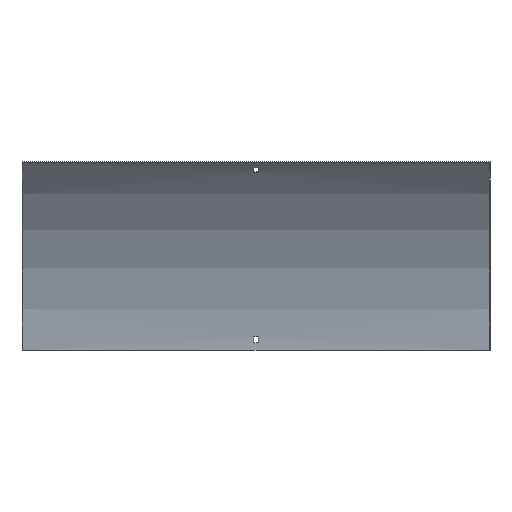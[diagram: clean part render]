
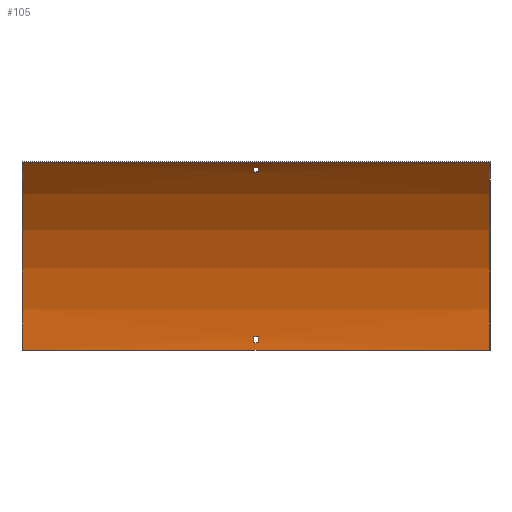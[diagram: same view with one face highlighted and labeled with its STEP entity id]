
A CAD part, front view. The second image highlights one B-rep face of the part: STEP entity #105.
In plain terms, the highlighted cylindrical face has radius 400 mm (diameter 800 mm), a partial arc.
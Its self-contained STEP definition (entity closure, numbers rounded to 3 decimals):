
#17 = EDGE_CURVE ( 'NONE', #217, #593, #139, .T. ) ;
#18 = ORIENTED_EDGE ( 'NONE', *, *, #557, .T. ) ;
#19 = ORIENTED_EDGE ( 'NONE', *, *, #447, .F. ) ;
#22 = CARTESIAN_POINT ( 'NONE',  ( -3.25, -104.198, 267.603 ) ) ;
#32 = AXIS2_PLACEMENT_3D ( 'NONE', #132, #91, #170 ) ;
#34 = AXIS2_PLACEMENT_3D ( 'NONE', #312, #261, #289 ) ;
#37 = DIRECTION ( 'NONE',  ( -1., 0., 0. ) ) ;
#39 = EDGE_LOOP ( 'NONE', ( #408, #247, #308, #18 ) ) ;
#41 = DIRECTION ( 'NONE',  ( 0., 0., -1. ) ) ;
#70 = ORIENTED_EDGE ( 'NONE', *, *, #429, .F. ) ;
#77 = EDGE_CURVE ( 'NONE', #149, #173, #318, .T. ) ;
#87 = EDGE_CURVE ( 'NONE', #482, #480, #209, .T. ) ;
#91 = DIRECTION ( 'NONE',  ( -1., 0., 0. ) ) ;
#94 = DIRECTION ( 'NONE',  ( 0., 0., -1. ) ) ;
#95 = DIRECTION ( 'NONE',  ( 1., 0., 0. ) ) ;
#103 = VECTOR ( 'NONE', #122, 1000. ) ;
#105 = ADVANCED_FACE ( 'NONE', ( #263, #125, #554 ), #406, .F. ) ;
#122 = DIRECTION ( 'NONE',  ( 1., 0., 0. ) ) ;
#125 = FACE_OUTER_BOUND ( 'NONE', #205, .T. ) ;
#132 = CARTESIAN_POINT ( 'NONE',  ( 351.5, -401.5, 0. ) ) ;
#137 = EDGE_CURVE ( 'NONE', #593, #434, #369, .T. ) ;
#139 = LINE ( 'NONE', #423, #279 ) ;
#143 = CIRCLE ( 'NONE', #34, 400. ) ;
#145 = CARTESIAN_POINT ( 'NONE',  ( 3.25, -2.052, 21. ) ) ;
#148 = CARTESIAN_POINT ( 'NONE',  ( 351.5, -2.052, 21. ) ) ;
#149 = VERTEX_POINT ( 'NONE', #363 ) ;
#158 = VERTEX_POINT ( 'NONE', #417 ) ;
#170 = DIRECTION ( 'NONE',  ( 0., 0., 1. ) ) ;
#173 = VERTEX_POINT ( 'NONE', #375 ) ;
#181 = ORIENTED_EDGE ( 'NONE', *, *, #290, .T. ) ;
#186 = CARTESIAN_POINT ( 'NONE',  ( -350., -401.5, 0. ) ) ;
#191 = EDGE_CURVE ( 'NONE', #480, #499, #425, .T. ) ;
#205 = EDGE_LOOP ( 'NONE', ( #367, #70, #542, #181 ) ) ;
#206 = DIRECTION ( 'NONE',  ( -1., 0., 0. ) ) ;
#209 = CIRCLE ( 'NONE', #335, 400. ) ;
#217 = VERTEX_POINT ( 'NONE', #240 ) ;
#219 = CARTESIAN_POINT ( 'NONE',  ( 350., -118.657, 282.843 ) ) ;
#233 = EDGE_CURVE ( 'NONE', #434, #384, #236, .T. ) ;
#236 = LINE ( 'NONE', #578, #416 ) ;
#240 = CARTESIAN_POINT ( 'NONE',  ( 3.25, -104.198, 267.603 ) ) ;
#242 = AXIS2_PLACEMENT_3D ( 'NONE', #409, #361, #415 ) ;
#245 = DIRECTION ( 'NONE',  ( 0., 0., 1. ) ) ;
#247 = ORIENTED_EDGE ( 'NONE', *, *, #137, .T. ) ;
#261 = DIRECTION ( 'NONE',  ( -1., 0., 0. ) ) ;
#263 = FACE_BOUND ( 'NONE', #573, .T. ) ;
#277 = VECTOR ( 'NONE', #444, 1000. ) ;
#279 = VECTOR ( 'NONE', #325, 1000. ) ;
#289 = DIRECTION ( 'NONE',  ( 0., 0., 1. ) ) ;
#290 = EDGE_CURVE ( 'NONE', #403, #173, #298, .T. ) ;
#298 = LINE ( 'NONE', #487, #277 ) ;
#306 = CARTESIAN_POINT ( 'NONE',  ( 3.25, -401.5, 0. ) ) ;
#308 = ORIENTED_EDGE ( 'NONE', *, *, #233, .T. ) ;
#309 = CARTESIAN_POINT ( 'NONE',  ( 351.5, -1.68, 12. ) ) ;
#312 = CARTESIAN_POINT ( 'NONE',  ( -3.25, -401.5, 0. ) ) ;
#318 = CIRCLE ( 'NONE', #483, 400. ) ;
#320 = CARTESIAN_POINT ( 'NONE',  ( 3.25, -401.5, 0. ) ) ;
#325 = DIRECTION ( 'NONE',  ( -1., 0., 0. ) ) ;
#327 = VECTOR ( 'NONE', #37, 1000. ) ;
#332 = EDGE_CURVE ( 'NONE', #529, #482, #353, .T. ) ;
#335 = AXIS2_PLACEMENT_3D ( 'NONE', #320, #592, #94 ) ;
#339 = DIRECTION ( 'NONE',  ( 1., 0., 0. ) ) ;
#353 = LINE ( 'NONE', #309, #103 ) ;
#361 = DIRECTION ( 'NONE',  ( 1., 0., 0. ) ) ;
#363 = CARTESIAN_POINT ( 'NONE',  ( -350., -1.5, 0. ) ) ;
#367 = ORIENTED_EDGE ( 'NONE', *, *, #77, .F. ) ;
#369 = CIRCLE ( 'NONE', #421, 400. ) ;
#372 = CARTESIAN_POINT ( 'NONE',  ( 350., -1.5, 0. ) ) ;
#375 = CARTESIAN_POINT ( 'NONE',  ( -350., -118.657, 282.843 ) ) ;
#384 = VERTEX_POINT ( 'NONE', #448 ) ;
#403 = VERTEX_POINT ( 'NONE', #219 ) ;
#406 = CYLINDRICAL_SURFACE ( 'NONE', #32, 400. ) ;
#408 = ORIENTED_EDGE ( 'NONE', *, *, #17, .T. ) ;
#409 = CARTESIAN_POINT ( 'NONE',  ( 350., -401.5, 0. ) ) ;
#410 = EDGE_CURVE ( 'NONE', #158, #403, #591, .T. ) ;
#415 = DIRECTION ( 'NONE',  ( 0., 0., -1. ) ) ;
#416 = VECTOR ( 'NONE', #339, 1000. ) ;
#417 = CARTESIAN_POINT ( 'NONE',  ( 350., -1.5, 0. ) ) ;
#418 = DIRECTION ( 'NONE',  ( 0., 0., -1. ) ) ;
#420 = CIRCLE ( 'NONE', #553, 400. ) ;
#421 = AXIS2_PLACEMENT_3D ( 'NONE', #459, #545, #41 ) ;
#422 = DIRECTION ( 'NONE',  ( -1., 0., 0. ) ) ;
#423 = CARTESIAN_POINT ( 'NONE',  ( 351.5, -104.198, 267.603 ) ) ;
#425 = LINE ( 'NONE', #148, #467 ) ;
#429 = EDGE_CURVE ( 'NONE', #158, #149, #507, .T. ) ;
#433 = CARTESIAN_POINT ( 'NONE',  ( -3.25, -2.052, 21. ) ) ;
#434 = VERTEX_POINT ( 'NONE', #559 ) ;
#444 = DIRECTION ( 'NONE',  ( -1., 0., 0. ) ) ;
#447 = EDGE_CURVE ( 'NONE', #499, #529, #143, .T. ) ;
#448 = CARTESIAN_POINT ( 'NONE',  ( 3.25, -110.299, 274.23 ) ) ;
#459 = CARTESIAN_POINT ( 'NONE',  ( -3.25, -401.5, 0. ) ) ;
#467 = VECTOR ( 'NONE', #422, 1000. ) ;
#474 = ORIENTED_EDGE ( 'NONE', *, *, #87, .F. ) ;
#480 = VERTEX_POINT ( 'NONE', #145 ) ;
#482 = VERTEX_POINT ( 'NONE', #526 ) ;
#483 = AXIS2_PLACEMENT_3D ( 'NONE', #186, #95, #418 ) ;
#487 = CARTESIAN_POINT ( 'NONE',  ( 350., -118.657, 282.843 ) ) ;
#499 = VERTEX_POINT ( 'NONE', #433 ) ;
#503 = ORIENTED_EDGE ( 'NONE', *, *, #332, .F. ) ;
#507 = LINE ( 'NONE', #372, #327 ) ;
#526 = CARTESIAN_POINT ( 'NONE',  ( 3.25, -1.68, 12. ) ) ;
#529 = VERTEX_POINT ( 'NONE', #566 ) ;
#542 = ORIENTED_EDGE ( 'NONE', *, *, #410, .T. ) ;
#545 = DIRECTION ( 'NONE',  ( 1., 0., 0. ) ) ;
#553 = AXIS2_PLACEMENT_3D ( 'NONE', #306, #206, #245 ) ;
#554 = FACE_BOUND ( 'NONE', #39, .T. ) ;
#556 = ORIENTED_EDGE ( 'NONE', *, *, #191, .F. ) ;
#557 = EDGE_CURVE ( 'NONE', #384, #217, #420, .T. ) ;
#559 = CARTESIAN_POINT ( 'NONE',  ( -3.25, -110.299, 274.23 ) ) ;
#566 = CARTESIAN_POINT ( 'NONE',  ( -3.25, -1.68, 12. ) ) ;
#573 = EDGE_LOOP ( 'NONE', ( #19, #556, #474, #503 ) ) ;
#578 = CARTESIAN_POINT ( 'NONE',  ( 351.5, -110.299, 274.23 ) ) ;
#591 = CIRCLE ( 'NONE', #242, 400. ) ;
#592 = DIRECTION ( 'NONE',  ( 1., 0., 0. ) ) ;
#593 = VERTEX_POINT ( 'NONE', #22 ) ;
